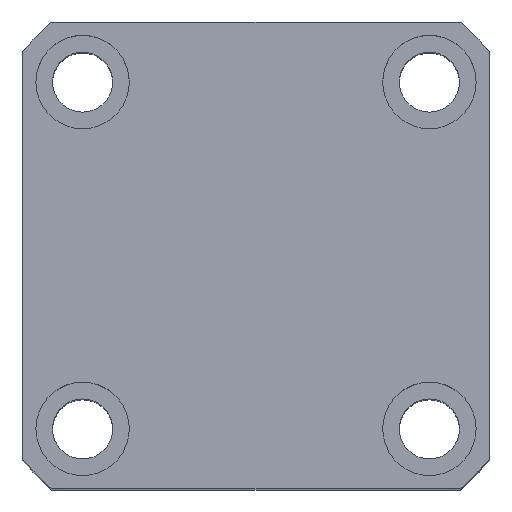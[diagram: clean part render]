
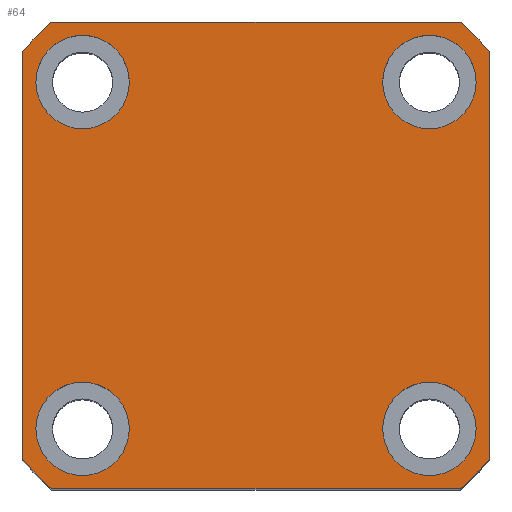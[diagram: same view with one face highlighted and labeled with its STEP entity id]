
A CAD part, top view. The second image highlights one B-rep face of the part: STEP entity #64.
In plain terms, the highlighted planar face has unit normal (0, 0, 1).
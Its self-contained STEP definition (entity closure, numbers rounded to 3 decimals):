
#64 = ADVANCED_FACE ( 'NONE', ( #6334, #2425, #6611, #4535, #2174 ), #4322, .T. ) ;
#116 = CIRCLE ( 'NONE', #1207, 46.5 ) ;
#177 = AXIS2_PLACEMENT_3D ( 'NONE', #7670, #3031, #8451 ) ;
#253 = EDGE_LOOP ( 'NONE', ( #2776, #6909 ) ) ;
#254 = DIRECTION ( 'NONE',  ( 0., 0., 1. ) ) ;
#288 = AXIS2_PLACEMENT_3D ( 'NONE', #3962, #9331, #4761 ) ;
#358 = DIRECTION ( 'NONE',  ( 1., 0., 0. ) ) ;
#429 = DIRECTION ( 'NONE',  ( 0., 0., 1. ) ) ;
#448 = ORIENTED_EDGE ( 'NONE', *, *, #3275, .T. ) ;
#580 = CARTESIAN_POINT ( 'NONE',  ( -26., -26., 95. ) ) ;
#608 = CARTESIAN_POINT ( 'NONE',  ( 30.615, -35., 95. ) ) ;
#903 = EDGE_CURVE ( 'NONE', #4428, #1352, #2008, .T. ) ;
#912 = VERTEX_POINT ( 'NONE', #9918 ) ;
#962 = ORIENTED_EDGE ( 'NONE', *, *, #903, .T. ) ;
#1071 = AXIS2_PLACEMENT_3D ( 'NONE', #580, #6063, #1377 ) ;
#1133 = DIRECTION ( 'NONE',  ( 0., 1., 0. ) ) ;
#1207 = AXIS2_PLACEMENT_3D ( 'NONE', #2616, #8053, #3422 ) ;
#1243 = AXIS2_PLACEMENT_3D ( 'NONE', #7016, #2341, #7771 ) ;
#1272 = EDGE_CURVE ( 'NONE', #6732, #3294, #3346, .T. ) ;
#1352 = VERTEX_POINT ( 'NONE', #3643 ) ;
#1377 = DIRECTION ( 'NONE',  ( 1., 0., 0. ) ) ;
#1457 = ORIENTED_EDGE ( 'NONE', *, *, #6102, .T. ) ;
#1482 = CIRCLE ( 'NONE', #1071, 7. ) ;
#1497 = CIRCLE ( 'NONE', #9255, 46.5 ) ;
#1502 = CARTESIAN_POINT ( 'NONE',  ( 0., 0., 95. ) ) ;
#1513 = VERTEX_POINT ( 'NONE', #7347 ) ;
#1552 = EDGE_CURVE ( 'NONE', #3621, #3679, #6377, .T. ) ;
#1579 = LINE ( 'NONE', #5987, #8048 ) ;
#1702 = ORIENTED_EDGE ( 'NONE', *, *, #3936, .T. ) ;
#1790 = AXIS2_PLACEMENT_3D ( 'NONE', #2605, #8036, #3411 ) ;
#1844 = EDGE_CURVE ( 'NONE', #4149, #9341, #1482, .T. ) ;
#1928 = ORIENTED_EDGE ( 'NONE', *, *, #7273, .F. ) ;
#1975 = ORIENTED_EDGE ( 'NONE', *, *, #5382, .F. ) ;
#2008 = LINE ( 'NONE', #6033, #9734 ) ;
#2053 = EDGE_CURVE ( 'NONE', #1352, #5427, #4931, .T. ) ;
#2117 = CARTESIAN_POINT ( 'NONE',  ( 26., 26., 95. ) ) ;
#2174 = FACE_OUTER_BOUND ( 'NONE', #9380, .T. ) ;
#2189 = VERTEX_POINT ( 'NONE', #4199 ) ;
#2275 = DIRECTION ( 'NONE',  ( 1., 0., 0. ) ) ;
#2341 = DIRECTION ( 'NONE',  ( 0., 0., 1. ) ) ;
#2423 = EDGE_CURVE ( 'NONE', #912, #7441, #6635, .T. ) ;
#2425 = FACE_BOUND ( 'NONE', #253, .T. ) ;
#2440 = CARTESIAN_POINT ( 'NONE',  ( 26., 26., 95. ) ) ;
#2537 = CARTESIAN_POINT ( 'NONE',  ( -35., 35., 95. ) ) ;
#2605 = CARTESIAN_POINT ( 'NONE',  ( -26., 26., 95. ) ) ;
#2606 = VECTOR ( 'NONE', #3461, 1000. ) ;
#2616 = CARTESIAN_POINT ( 'NONE',  ( 0., 0., 95. ) ) ;
#2640 = EDGE_CURVE ( 'NONE', #7411, #1513, #116, .T. ) ;
#2655 = ORIENTED_EDGE ( 'NONE', *, *, #2423, .F. ) ;
#2776 = ORIENTED_EDGE ( 'NONE', *, *, #1552, .F. ) ;
#2912 = DIRECTION ( 'NONE',  ( 1., 0., 0. ) ) ;
#2974 = CARTESIAN_POINT ( 'NONE',  ( 33., 26., 95. ) ) ;
#2977 = DIRECTION ( 'NONE',  ( -1., 0., 0. ) ) ;
#3000 = ORIENTED_EDGE ( 'NONE', *, *, #1844, .F. ) ;
#3031 = DIRECTION ( 'NONE',  ( 0., 0., 1. ) ) ;
#3163 = AXIS2_PLACEMENT_3D ( 'NONE', #2117, #7553, #2912 ) ;
#3229 = DIRECTION ( 'NONE',  ( 1., 0., 0. ) ) ;
#3275 = EDGE_CURVE ( 'NONE', #1513, #8220, #1579, .T. ) ;
#3294 = VERTEX_POINT ( 'NONE', #8302 ) ;
#3302 = ORIENTED_EDGE ( 'NONE', *, *, #2053, .T. ) ;
#3317 = ORIENTED_EDGE ( 'NONE', *, *, #5151, .T. ) ;
#3335 = DIRECTION ( 'NONE',  ( 0., -1., 0. ) ) ;
#3346 = CIRCLE ( 'NONE', #1790, 7. ) ;
#3411 = DIRECTION ( 'NONE',  ( 1., 0., 0. ) ) ;
#3422 = DIRECTION ( 'NONE',  ( 1., 0., 0. ) ) ;
#3461 = DIRECTION ( 'NONE',  ( 1., 0., 0. ) ) ;
#3621 = VERTEX_POINT ( 'NONE', #9865 ) ;
#3624 = CARTESIAN_POINT ( 'NONE',  ( 0., 0., 95. ) ) ;
#3643 = CARTESIAN_POINT ( 'NONE',  ( -30.615, 35., 95. ) ) ;
#3679 = VERTEX_POINT ( 'NONE', #6871 ) ;
#3780 = ORIENTED_EDGE ( 'NONE', *, *, #2640, .T. ) ;
#3923 = CIRCLE ( 'NONE', #177, 7. ) ;
#3927 = AXIS2_PLACEMENT_3D ( 'NONE', #3624, #429, #8132 ) ;
#3936 = EDGE_CURVE ( 'NONE', #2189, #6610, #1497, .T. ) ;
#3962 = CARTESIAN_POINT ( 'NONE',  ( -26., -26., 95. ) ) ;
#4087 = EDGE_CURVE ( 'NONE', #6610, #7411, #4686, .T. ) ;
#4149 = VERTEX_POINT ( 'NONE', #5810 ) ;
#4176 = EDGE_LOOP ( 'NONE', ( #1975, #3000 ) ) ;
#4199 = CARTESIAN_POINT ( 'NONE',  ( -35., -30.615, 95. ) ) ;
#4322 = PLANE ( 'NONE',  #3927 ) ;
#4428 = VERTEX_POINT ( 'NONE', #9862 ) ;
#4535 = FACE_BOUND ( 'NONE', #8771, .T. ) ;
#4571 = DIRECTION ( 'NONE',  ( 0., 0., 1. ) ) ;
#4686 = LINE ( 'NONE', #8055, #2606 ) ;
#4739 = AXIS2_PLACEMENT_3D ( 'NONE', #1502, #6957, #2275 ) ;
#4761 = DIRECTION ( 'NONE',  ( 1., 0., 0. ) ) ;
#4922 = VECTOR ( 'NONE', #3335, 1000. ) ;
#4931 = CIRCLE ( 'NONE', #4739, 46.5 ) ;
#4961 = CARTESIAN_POINT ( 'NONE',  ( 0., 0., 95. ) ) ;
#5065 = CIRCLE ( 'NONE', #288, 7. ) ;
#5067 = DIRECTION ( 'NONE',  ( 0., 0., 1. ) ) ;
#5151 = EDGE_CURVE ( 'NONE', #8220, #4428, #8072, .T. ) ;
#5201 = EDGE_CURVE ( 'NONE', #3679, #3621, #3923, .T. ) ;
#5244 = CIRCLE ( 'NONE', #3163, 7. ) ;
#5324 = EDGE_CURVE ( 'NONE', #3294, #6732, #9120, .T. ) ;
#5380 = EDGE_LOOP ( 'NONE', ( #1928, #2655 ) ) ;
#5382 = EDGE_CURVE ( 'NONE', #9341, #4149, #5065, .T. ) ;
#5427 = VERTEX_POINT ( 'NONE', #6310 ) ;
#5737 = DIRECTION ( 'NONE',  ( 1., 0., 0. ) ) ;
#5810 = CARTESIAN_POINT ( 'NONE',  ( -33., -26., 95. ) ) ;
#5890 = ORIENTED_EDGE ( 'NONE', *, *, #4087, .T. ) ;
#5987 = CARTESIAN_POINT ( 'NONE',  ( 35., 35., 95. ) ) ;
#6033 = CARTESIAN_POINT ( 'NONE',  ( -35., 35., 95. ) ) ;
#6063 = DIRECTION ( 'NONE',  ( 0., 0., 1. ) ) ;
#6102 = EDGE_CURVE ( 'NONE', #5427, #2189, #6968, .T. ) ;
#6138 = CARTESIAN_POINT ( 'NONE',  ( 35., 30.615, 95. ) ) ;
#6310 = CARTESIAN_POINT ( 'NONE',  ( -35., 30.615, 95. ) ) ;
#6334 = FACE_BOUND ( 'NONE', #4176, .T. ) ;
#6377 = CIRCLE ( 'NONE', #8037, 7. ) ;
#6431 = ORIENTED_EDGE ( 'NONE', *, *, #1272, .F. ) ;
#6610 = VERTEX_POINT ( 'NONE', #8545 ) ;
#6611 = FACE_BOUND ( 'NONE', #5380, .T. ) ;
#6635 = CIRCLE ( 'NONE', #8184, 7. ) ;
#6689 = ORIENTED_EDGE ( 'NONE', *, *, #5324, .F. ) ;
#6732 = VERTEX_POINT ( 'NONE', #7844 ) ;
#6871 = CARTESIAN_POINT ( 'NONE',  ( 19., -26., 95. ) ) ;
#6909 = ORIENTED_EDGE ( 'NONE', *, *, #5201, .F. ) ;
#6957 = DIRECTION ( 'NONE',  ( 0., 0., 1. ) ) ;
#6968 = LINE ( 'NONE', #2537, #4922 ) ;
#7016 = CARTESIAN_POINT ( 'NONE',  ( -26., 26., 95. ) ) ;
#7273 = EDGE_CURVE ( 'NONE', #7441, #912, #5244, .T. ) ;
#7347 = CARTESIAN_POINT ( 'NONE',  ( 35., -30.615, 95. ) ) ;
#7411 = VERTEX_POINT ( 'NONE', #608 ) ;
#7441 = VERTEX_POINT ( 'NONE', #2974 ) ;
#7553 = DIRECTION ( 'NONE',  ( 0., 0., 1. ) ) ;
#7670 = CARTESIAN_POINT ( 'NONE',  ( 26., -26., 95. ) ) ;
#7771 = DIRECTION ( 'NONE',  ( 1., 0., 0. ) ) ;
#7844 = CARTESIAN_POINT ( 'NONE',  ( -33., 26., 95. ) ) ;
#7868 = DIRECTION ( 'NONE',  ( 0., 0., 1. ) ) ;
#8036 = DIRECTION ( 'NONE',  ( 0., 0., 1. ) ) ;
#8037 = AXIS2_PLACEMENT_3D ( 'NONE', #9638, #5067, #358 ) ;
#8048 = VECTOR ( 'NONE', #1133, 1000. ) ;
#8053 = DIRECTION ( 'NONE',  ( 0., 0., 1. ) ) ;
#8055 = CARTESIAN_POINT ( 'NONE',  ( -35., -35., 95. ) ) ;
#8072 = CIRCLE ( 'NONE', #8222, 46.5 ) ;
#8132 = DIRECTION ( 'NONE',  ( 1., 0., 0. ) ) ;
#8184 = AXIS2_PLACEMENT_3D ( 'NONE', #2440, #7868, #3229 ) ;
#8220 = VERTEX_POINT ( 'NONE', #6138 ) ;
#8222 = AXIS2_PLACEMENT_3D ( 'NONE', #9149, #4571, #9914 ) ;
#8302 = CARTESIAN_POINT ( 'NONE',  ( -19., 26., 95. ) ) ;
#8359 = CARTESIAN_POINT ( 'NONE',  ( -19., -26., 95. ) ) ;
#8451 = DIRECTION ( 'NONE',  ( 1., 0., 0. ) ) ;
#8545 = CARTESIAN_POINT ( 'NONE',  ( -30.615, -35., 95. ) ) ;
#8771 = EDGE_LOOP ( 'NONE', ( #6689, #6431 ) ) ;
#9120 = CIRCLE ( 'NONE', #1243, 7. ) ;
#9149 = CARTESIAN_POINT ( 'NONE',  ( 0., 0., 95. ) ) ;
#9255 = AXIS2_PLACEMENT_3D ( 'NONE', #4961, #254, #5737 ) ;
#9331 = DIRECTION ( 'NONE',  ( 0., 0., 1. ) ) ;
#9341 = VERTEX_POINT ( 'NONE', #8359 ) ;
#9380 = EDGE_LOOP ( 'NONE', ( #448, #3317, #962, #3302, #1457, #1702, #5890, #3780 ) ) ;
#9638 = CARTESIAN_POINT ( 'NONE',  ( 26., -26., 95. ) ) ;
#9734 = VECTOR ( 'NONE', #2977, 1000. ) ;
#9862 = CARTESIAN_POINT ( 'NONE',  ( 30.615, 35., 95. ) ) ;
#9865 = CARTESIAN_POINT ( 'NONE',  ( 33., -26., 95. ) ) ;
#9914 = DIRECTION ( 'NONE',  ( 1., 0., 0. ) ) ;
#9918 = CARTESIAN_POINT ( 'NONE',  ( 19., 26., 95. ) ) ;
